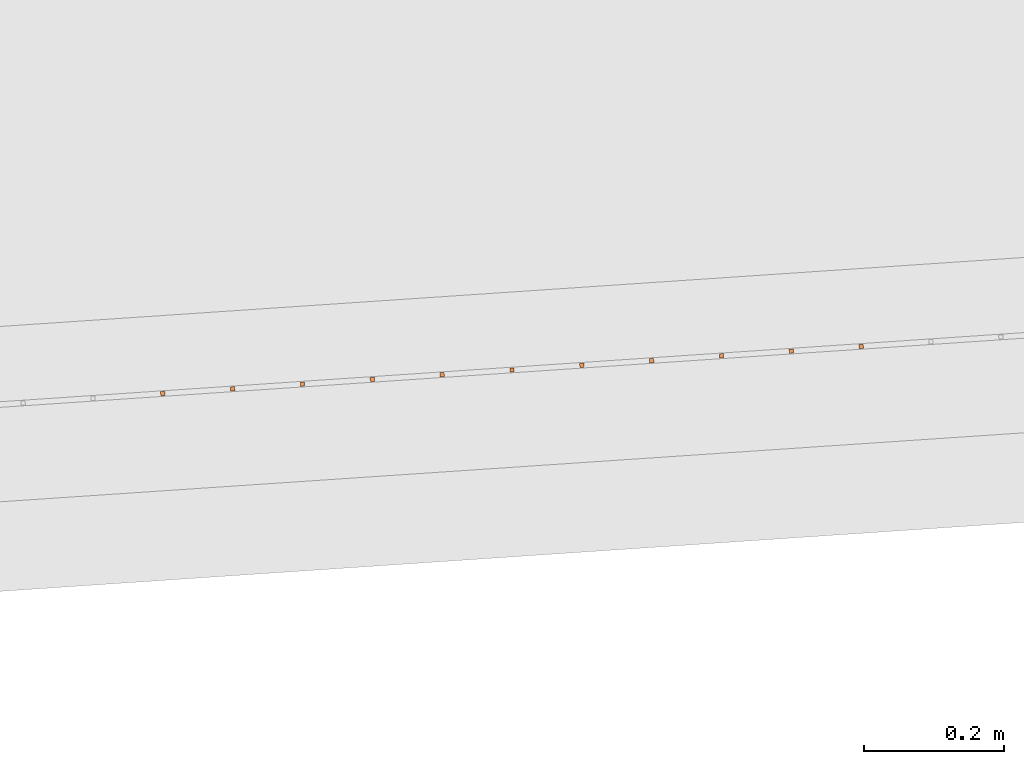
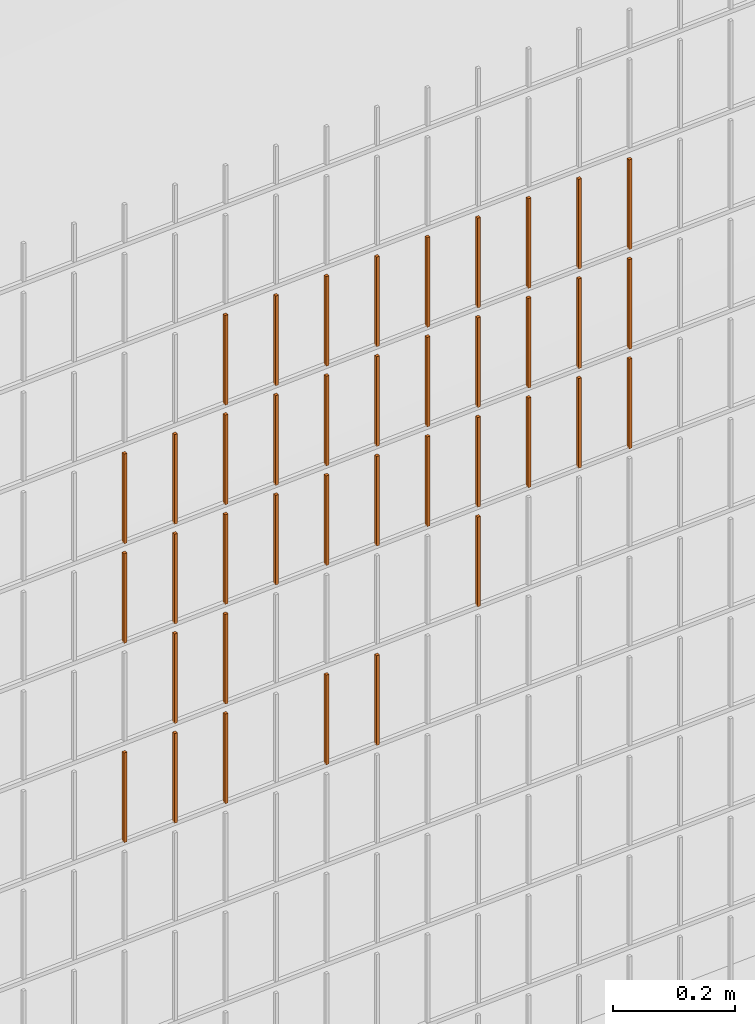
# One storey, part 191 of 1809: 39 proxies, 1 element without a shape of its own.
"""IFC2X3 building model written with IfcOpenShell, lengths in millimetres."""

from ifc_helpers import new_model, entity, si_unit, converted_unit, derived_unit, money_unit, direction, frame, origin_with_axes, place, context, subcontext, project, spatial, faceted_brep, source, transform, mapped, material, type_object, element, aggregate, save


model = new_model("IFC2X3")

# Units and contexts
model_context = context("Model", 3, precision=0.01, world=origin_with_axes(), true_north=direction((0.0, 1.0)))
body_context = subcontext(model_context, "Body", "Model", "MODEL_VIEW")
ifc_project = project(units=[si_unit("LENGTHUNIT", "METRE", prefix="MILLI"), si_unit("AREAUNIT", "SQUARE_METRE"), si_unit("VOLUMEUNIT", "CUBIC_METRE"), converted_unit("PLANEANGLEUNIT", "DEGREE", entity("IfcPlaneAngleMeasure", 0.0174532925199), si_unit("PLANEANGLEUNIT", "RADIAN"), dimensions=[0, 0, 0, 0, 0, 0, 0]), si_unit("SOLIDANGLEUNIT", "STERADIAN"), money_unit("EUR"), converted_unit("TIMEUNIT", "Year", entity("IfcTimeMeasure", 31556926.0), si_unit("TIMEUNIT", "SECOND"), dimensions=[0, 0, 1, 0, 0, 0, 0]), si_unit("MASSUNIT", "GRAM", prefix="KILO"), si_unit("THERMODYNAMICTEMPERATUREUNIT", "DEGREE_CELSIUS"), si_unit("LUMINOUSINTENSITYUNIT", "LUMEN"), si_unit("ENERGYUNIT", "JOULE", prefix="MEGA"), derived_unit("THERMALCONDUCTANCEUNIT", [(si_unit("POWERUNIT", "WATT"), 1), (si_unit("LENGTHUNIT", "METRE"), -1), (si_unit("THERMODYNAMICTEMPERATUREUNIT", "KELVIN"), -1)]), derived_unit("SPECIFICHEATCAPACITYUNIT", [(si_unit("ENERGYUNIT", "JOULE"), 1), (si_unit("MASSUNIT", "GRAM", prefix="KILO"), -1), (si_unit("THERMODYNAMICTEMPERATUREUNIT", "KELVIN"), -1)]), derived_unit("MASSDENSITYUNIT", [(si_unit("MASSUNIT", "GRAM", prefix="KILO"), 1), (si_unit("VOLUMEUNIT", "CUBIC_METRE"), -1)])], contexts=[model_context])

# Site, building, storey
site_placement = place(None, origin_with_axes())
site = spatial("IfcSite", under=ifc_project, at=site_placement, Name="Politse- ja Piirivalveameti ning Päästeameti ühishoone", CompositionType="ELEMENT")
building_placement = place(site_placement, origin_with_axes())
building = spatial("IfcBuilding", under=site, at=building_placement, Name="Politse- ja Piirivalveameti ning Päästeameti ühishoone", CompositionType="ELEMENT")
storey_placement = place(building_placement, origin_with_axes())
storey = spatial("IfcBuildingStorey", under=building, at=storey_placement, Name="Esimene korrus", CompositionType="ELEMENT", Elevation=0.0)

# Proxies
building_element_proxy_type_1 = type_object("IfcBuildingElementProxyType", Name="Railing Type", PredefinedType="NOTDEFINED")
proxy_1_placement = place(storey_placement, frame((89252.001212, -29183.4766571, 203.661247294), z_axis=(0.0, 0.0, 1.0), x_axis=(1.0, 0.0, 0.0)))
proxy_1 = element("IfcBuildingElementProxy", 1, at=proxy_1_placement, inside=storey, type_object=building_element_proxy_type_1, Name="PIIRDEAED")
ifc_material = material(Name="ET-03_Raud")
building_element_proxy_type_2 = type_object("IfcBuildingElementProxyType", Name="IfcBuildingElementProxy", PredefinedType="NOTDEFINED")
shared_shape_1 = source(origin_with_axes(), body_context, "Body", "Brep", [
    faceted_brep([(3.0, 3.0, -0.000752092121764), (-3.0, 3.0, -0.000752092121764), (-3.0, 3.0, 179.99926046), (3.0, 3.0, 179.99926046), (3.0, -3.0, 0.000752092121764), (-3.0, -3.0, 0.000752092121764), (-3.0, -3.0, 180.000764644), (3.0, -3.0, 180.000764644)], [[[0, 1, 2, 3]], [[0, 4, 5, 1]], [[1, 5, 6, 2]], [[3, 2, 6, 7]], [[4, 0, 3, 7]], [[5, 4, 7, 6]]]),
])
proxy_2_placement = place(proxy_1_placement, frame((-68570.4399222, -21929.4492028, 1210.00478532), z_axis=(0.0, 0.0, 1.0), x_axis=(1.0, 0.0, 0.0)))
proxy_2 = element("IfcBuildingElementProxy", 2, at=proxy_2_placement, type_object=building_element_proxy_type_2, material=ifc_material, Name="BALUSTER - 001", context=body_context, shape_type="MappedRepresentation", body=[
    mapped(shared_shape_1, transform((0.0, 0.0, 0.0), x_axis=(-0.0673926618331, 0.997726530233, 0.0), y_axis=(-0.997726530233, -0.0673926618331, 0.0), z_axis=(0.0, 0.0, 1.0))),
])
shared_shape_2 = source(origin_with_axes(), body_context, "Body", "Brep", [
    faceted_brep([(3.0, 3.0, -0.000752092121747), (-3.0, 3.0, -0.00075209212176), (-3.00000000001, 3.0, 179.99926046), (2.99999999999, 3.0, 179.99926046), (3.0, -3.0, 0.00075209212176), (-3.0, -3.0, 0.000752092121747), (-3.00000000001, -3.0, 180.000764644), (2.99999999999, -3.0, 180.000764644)], [[[0, 1, 2, 3]], [[0, 4, 5, 1]], [[1, 5, 6, 2]], [[3, 2, 6, 7]], [[4, 0, 3, 7]], [[5, 4, 7, 6]]]),
])
proxy_3_placement = place(proxy_1_placement, frame((-68470.6672692, -21922.7099367, 1010.02985506), z_axis=(0.0, 0.0, 1.0), x_axis=(1.0, 0.0, 0.0)))
proxy_3 = element("IfcBuildingElementProxy", 3, at=proxy_3_placement, type_object=building_element_proxy_type_2, material=ifc_material, Name="BALUSTER - 001", context=body_context, shape_type="MappedRepresentation", body=[
    mapped(shared_shape_2, transform((0.0, 0.0, 0.0), x_axis=(-0.0673926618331, 0.997726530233, 0.0), y_axis=(-0.997726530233, -0.0673926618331, 0.0), z_axis=(0.0, 0.0, 1.0))),
])
shared_shape_3 = source(origin_with_axes(), body_context, "Body", "Brep", [
    faceted_brep([(3.0, 3.0, -0.000752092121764), (-3.0, 3.0, -0.000752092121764), (-3.0, 3.0, 179.99926046), (3.0, 3.0, 179.99926046), (3.0, -3.0, 0.000752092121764), (-3.0, -3.0, 0.000752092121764), (-3.0, -3.0, 180.000764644), (3.0, -3.0, 180.000764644)], [[[0, 1, 2, 3]], [[0, 4, 5, 1]], [[1, 5, 6, 2]], [[3, 2, 6, 7]], [[4, 0, 3, 7]], [[5, 4, 7, 6]]]),
])
proxy_4_placement = place(proxy_1_placement, frame((-68570.4399222, -21929.4492028, 1410.00478532), z_axis=(0.0, 0.0, 1.0), x_axis=(1.0, 0.0, 0.0)))
proxy_4 = element("IfcBuildingElementProxy", 4, at=proxy_4_placement, type_object=building_element_proxy_type_2, material=ifc_material, Name="BALUSTER - 001", context=body_context, shape_type="MappedRepresentation", body=[
    mapped(shared_shape_3, transform((0.0, 0.0, 0.0), x_axis=(-0.0673926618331, 0.997726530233, 0.0), y_axis=(-0.997726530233, -0.0673926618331, 0.0), z_axis=(0.0, 0.0, 1.0))),
])
proxy_5_placement = place(proxy_1_placement, frame((-68570.4399222, -21929.4492028, 1610.00478532), z_axis=(0.0, 0.0, 1.0), x_axis=(1.0, 0.0, 0.0)))
proxy_5 = element("IfcBuildingElementProxy", 5, at=proxy_5_placement, type_object=building_element_proxy_type_2, material=ifc_material, Name="BALUSTER - 001", context=body_context, shape_type="MappedRepresentation", body=[
    mapped(shared_shape_3, transform((0.0, 0.0, 0.0), x_axis=(-0.0673926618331, 0.997726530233, 0.0), y_axis=(-0.997726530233, -0.0673926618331, 0.0), z_axis=(0.0, 0.0, 1.0))),
])
shared_shape_4 = source(origin_with_axes(), body_context, "Body", "Brep", [
    faceted_brep([(3.0, 3.0, -0.000752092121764), (-3.0, 3.0, -0.000752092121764), (-3.0, 3.0, 179.99926046), (3.0, 3.0, 179.99926046), (3.0, -3.0, 0.000752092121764), (-3.0, -3.0, 0.000752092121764), (-3.0, -3.0, 180.000764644), (3.0, -3.0, 180.000764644)], [[[0, 1, 2, 3]], [[0, 4, 5, 1]], [[1, 5, 6, 2]], [[3, 2, 6, 7]], [[4, 0, 3, 7]], [[5, 4, 7, 6]]]),
])
proxy_6_placement = place(proxy_1_placement, frame((-68670.2125752, -21936.188469, 809.979715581), z_axis=(0.0, 0.0, 1.0), x_axis=(1.0, 0.0, 0.0)))
proxy_6 = element("IfcBuildingElementProxy", 6, at=proxy_6_placement, type_object=building_element_proxy_type_2, material=ifc_material, Name="BALUSTER - 001", context=body_context, shape_type="MappedRepresentation", body=[
    mapped(shared_shape_4, transform((0.0, 0.0, 0.0), x_axis=(-0.0673926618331, 0.997726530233, 0.0), y_axis=(-0.997726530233, -0.0673926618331, 0.0), z_axis=(0.0, 0.0, 1.0))),
])
proxy_7_placement = place(proxy_1_placement, frame((-68769.9852282, -21942.9277352, 809.954645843), z_axis=(0.0, 0.0, 1.0), x_axis=(1.0, 0.0, 0.0)))
proxy_7 = element("IfcBuildingElementProxy", 7, at=proxy_7_placement, type_object=building_element_proxy_type_2, material=ifc_material, Name="BALUSTER - 001", context=body_context, shape_type="MappedRepresentation", body=[
    mapped(shared_shape_4, transform((0.0, 0.0, 0.0), x_axis=(-0.0673926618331, 0.997726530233, 0.0), y_axis=(-0.997726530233, -0.0673926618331, 0.0), z_axis=(0.0, 0.0, 1.0))),
])
proxy_8_placement = place(proxy_1_placement, frame((-68769.9852282, -21942.9277352, 1209.95464584), z_axis=(0.0, 0.0, 1.0), x_axis=(1.0, 0.0, 0.0)))
proxy_8 = element("IfcBuildingElementProxy", 8, at=proxy_8_placement, type_object=building_element_proxy_type_2, material=ifc_material, Name="BALUSTER - 001", context=body_context, shape_type="MappedRepresentation", body=[
    mapped(shared_shape_4, transform((0.0, 0.0, 0.0), x_axis=(-0.0673926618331, 0.997726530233, 0.0), y_axis=(-0.997726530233, -0.0673926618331, 0.0), z_axis=(0.0, 0.0, 1.0))),
])
shared_shape_5 = source(origin_with_axes(), body_context, "Body", "Brep", [
    faceted_brep([(3.0, 3.0, -0.000752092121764), (-3.0, 3.0, -0.000752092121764), (-3.0, 3.0, 179.99926046), (3.0, 3.0, 179.99926046), (3.0, -3.0, 0.000752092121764), (-3.0, -3.0, 0.000752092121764), (-3.0, -3.0, 180.000764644), (3.0, -3.0, 180.000764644)], [[[0, 1, 2, 3]], [[0, 4, 5, 1]], [[1, 5, 6, 2]], [[3, 2, 6, 7]], [[4, 0, 3, 7]], [[5, 4, 7, 6]]]),
])
proxy_9_placement = place(proxy_1_placement, frame((-69169.0758403, -21969.8847999, 1209.85436689), z_axis=(0.0, 0.0, 1.0), x_axis=(1.0, 0.0, 0.0)))
proxy_9 = element("IfcBuildingElementProxy", 9, at=proxy_9_placement, type_object=building_element_proxy_type_2, material=ifc_material, Name="BALUSTER - 001", context=body_context, shape_type="MappedRepresentation", body=[
    mapped(shared_shape_5, transform((0.0, 0.0, 0.0), x_axis=(-0.0673926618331, 0.997726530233, 0.0), y_axis=(-0.997726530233, -0.0673926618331, 0.0), z_axis=(0.0, 0.0, 1.0))),
])
shared_shape_6 = source(origin_with_axes(), body_context, "Body", "Brep", [
    faceted_brep([(3.0, 3.0, -0.000752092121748), (-3.0, 3.0, -0.00075209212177), (-3.0, 3.0, 179.99926046), (3.0, 3.0, 179.99926046), (3.0, -3.0, 0.00075209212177), (-3.0, -3.0, 0.000752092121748), (-3.0, -3.0, 180.000764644), (3.0, -3.0, 180.000764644)], [[[0, 1, 2, 3]], [[0, 4, 5, 1]], [[1, 5, 6, 2]], [[3, 2, 6, 7]], [[4, 0, 3, 7]], [[5, 4, 7, 6]]]),
])
proxy_10_placement = place(proxy_1_placement, frame((-68969.5305343, -21956.4062676, 809.904506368), z_axis=(0.0, 0.0, 1.0), x_axis=(1.0, 0.0, 0.0)))
proxy_10 = element("IfcBuildingElementProxy", 10, at=proxy_10_placement, type_object=building_element_proxy_type_2, material=ifc_material, Name="BALUSTER - 001", context=body_context, shape_type="MappedRepresentation", body=[
    mapped(shared_shape_6, transform((0.0, 0.0, 0.0), x_axis=(-0.0673926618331, 0.997726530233, 0.0), y_axis=(-0.997726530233, -0.0673926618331, 0.0), z_axis=(0.0, 0.0, 1.0))),
])
proxy_11_placement = place(proxy_1_placement, frame((-68370.8946162, -21915.9706705, 1210.05492479), z_axis=(0.0, 0.0, 1.0), x_axis=(1.0, 0.0, 0.0)))
proxy_11 = element("IfcBuildingElementProxy", 11, at=proxy_11_placement, type_object=building_element_proxy_type_2, material=ifc_material, Name="BALUSTER - 001", context=body_context, shape_type="MappedRepresentation", body=[
    mapped(shared_shape_6, transform((0.0, 0.0, 0.0), x_axis=(-0.0673926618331, 0.997726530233, 0.0), y_axis=(-0.997726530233, -0.0673926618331, 0.0), z_axis=(0.0, 0.0, 1.0))),
])
proxy_12_placement = place(proxy_1_placement, frame((-68969.5305343, -21956.4062676, 1209.90450637), z_axis=(0.0, 0.0, 1.0), x_axis=(1.0, 0.0, 0.0)))
proxy_12 = element("IfcBuildingElementProxy", 12, at=proxy_12_placement, type_object=building_element_proxy_type_2, material=ifc_material, Name="BALUSTER - 001", context=body_context, shape_type="MappedRepresentation", body=[
    mapped(shared_shape_6, transform((0.0, 0.0, 0.0), x_axis=(-0.0673926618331, 0.997726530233, 0.0), y_axis=(-0.997726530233, -0.0673926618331, 0.0), z_axis=(0.0, 0.0, 1.0))),
])
shared_shape_7 = source(origin_with_axes(), body_context, "Body", "Brep", [
    faceted_brep([(3.0, 3.0, -0.000752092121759), (-3.0, 3.0, -0.000752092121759), (-3.0, 3.0, 179.99926046), (3.0, 3.0, 179.99926046), (3.0, -3.0, 0.000752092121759), (-3.0, -3.0, 0.000752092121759), (-3.0, -3.0, 180.000764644), (3.0, -3.0, 180.000764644)], [[[0, 1, 2, 3]], [[0, 4, 5, 1]], [[1, 5, 6, 2]], [[3, 2, 6, 7]], [[4, 0, 3, 7]], [[5, 4, 7, 6]]]),
])
proxy_13_placement = place(proxy_1_placement, frame((-68470.6672692, -21922.7099367, 1210.02985506), z_axis=(0.0, 0.0, 1.0), x_axis=(1.0, 0.0, 0.0)))
proxy_13 = element("IfcBuildingElementProxy", 13, at=proxy_13_placement, type_object=building_element_proxy_type_2, material=ifc_material, Name="BALUSTER - 001", context=body_context, shape_type="MappedRepresentation", body=[
    mapped(shared_shape_7, transform((0.0, 0.0, 0.0), x_axis=(-0.0673926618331, 0.997726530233, 0.0), y_axis=(-0.997726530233, -0.0673926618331, 0.0), z_axis=(0.0, 0.0, 1.0))),
])
shared_shape_8 = source(origin_with_axes(), body_context, "Body", "Brep", [
    faceted_brep([(3.0, 3.0, -0.000752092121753), (-3.0, 3.0, -0.000752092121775), (-3.0, 3.0, 179.99926046), (3.0, 3.0, 179.99926046), (3.0, -3.0, 0.000752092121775), (-3.0, -3.0, 0.000752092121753), (-3.0, -3.0, 180.000764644), (3.0, -3.0, 180.000764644)], [[[0, 1, 2, 3]], [[0, 4, 5, 1]], [[1, 5, 6, 2]], [[3, 2, 6, 7]], [[4, 0, 3, 7]], [[5, 4, 7, 6]]]),
])
proxy_14_placement = place(proxy_1_placement, frame((-69169.0758403, -21969.8847999, 809.854366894), z_axis=(0.0, 0.0, 1.0), x_axis=(1.0, 0.0, 0.0)))
proxy_14 = element("IfcBuildingElementProxy", 14, at=proxy_14_placement, type_object=building_element_proxy_type_2, material=ifc_material, Name="BALUSTER - 001", context=body_context, shape_type="MappedRepresentation", body=[
    mapped(shared_shape_8, transform((0.0, 0.0, 0.0), x_axis=(-0.0673926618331, 0.997726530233, 0.0), y_axis=(-0.997726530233, -0.0673926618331, 0.0), z_axis=(0.0, 0.0, 1.0))),
])
proxy_15_placement = place(proxy_1_placement, frame((-68171.3493101, -21902.4921381, 1210.10506427), z_axis=(0.0, 0.0, 1.0), x_axis=(1.0, 0.0, 0.0)))
proxy_15 = element("IfcBuildingElementProxy", 15, at=proxy_15_placement, type_object=building_element_proxy_type_2, material=ifc_material, Name="BALUSTER - 001", context=body_context, shape_type="MappedRepresentation", body=[
    mapped(shared_shape_8, transform((0.0, 0.0, 0.0), x_axis=(-0.0673926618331, 0.997726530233, 0.0), y_axis=(-0.997726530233, -0.0673926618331, 0.0), z_axis=(0.0, 0.0, 1.0))),
])
shared_shape_9 = source(origin_with_axes(), body_context, "Body", "Brep", [
    faceted_brep([(3.0, 3.0, -0.000752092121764), (-3.0, 3.0, -0.000752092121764), (-3.0, 3.0, 179.99926046), (3.0, 3.0, 179.99926046), (3.0, -3.0, 0.000752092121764), (-3.0, -3.0, 0.000752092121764), (-3.0, -3.0, 180.000764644), (3.0, -3.0, 180.000764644)], [[[0, 1, 2, 3]], [[0, 4, 5, 1]], [[1, 5, 6, 2]], [[3, 2, 6, 7]], [[4, 0, 3, 7]], [[5, 4, 7, 6]]]),
])
proxy_16_placement = place(proxy_1_placement, frame((-69169.0758403, -21969.8847999, 1409.85436689), z_axis=(0.0, 0.0, 1.0), x_axis=(1.0, 0.0, 0.0)))
proxy_16 = element("IfcBuildingElementProxy", 16, at=proxy_16_placement, type_object=building_element_proxy_type_2, material=ifc_material, Name="BALUSTER - 001", context=body_context, shape_type="MappedRepresentation", body=[
    mapped(shared_shape_9, transform((0.0, 0.0, 0.0), x_axis=(-0.0673926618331, 0.997726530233, 0.0), y_axis=(-0.997726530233, -0.0673926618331, 0.0), z_axis=(0.0, 0.0, 1.0))),
])
shared_shape_10 = source(origin_with_axes(), body_context, "Body", "Brep", [
    faceted_brep([(3.0, 3.0, -0.000752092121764), (-3.0, 3.0, -0.000752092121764), (-3.0, 3.0, 179.99926046), (3.0, 3.0, 179.99926046), (3.0, -3.0, 0.000752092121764), (-3.0, -3.0, 0.000752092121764), (-3.0, -3.0, 180.000764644), (3.0, -3.0, 180.000764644)], [[[0, 1, 2, 3]], [[0, 4, 5, 1]], [[1, 5, 6, 2]], [[3, 2, 6, 7]], [[4, 0, 3, 7]], [[5, 4, 7, 6]]]),
])
proxy_17_placement = place(proxy_1_placement, frame((-68769.9852282, -21942.9277352, 1409.95464584), z_axis=(0.0, 0.0, 1.0), x_axis=(1.0, 0.0, 0.0)))
proxy_17 = element("IfcBuildingElementProxy", 17, at=proxy_17_placement, type_object=building_element_proxy_type_2, material=ifc_material, Name="BALUSTER - 001", context=body_context, shape_type="MappedRepresentation", body=[
    mapped(shared_shape_10, transform((0.0, 0.0, 0.0), x_axis=(-0.0673926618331, 0.997726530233, 0.0), y_axis=(-0.997726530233, -0.0673926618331, 0.0), z_axis=(0.0, 0.0, 1.0))),
])
proxy_18_placement = place(proxy_1_placement, frame((-68769.9852282, -21942.9277352, 1609.95464584), z_axis=(0.0, 0.0, 1.0), x_axis=(1.0, 0.0, 0.0)))
proxy_18 = element("IfcBuildingElementProxy", 18, at=proxy_18_placement, type_object=building_element_proxy_type_2, material=ifc_material, Name="BALUSTER - 001", context=body_context, shape_type="MappedRepresentation", body=[
    mapped(shared_shape_10, transform((0.0, 0.0, 0.0), x_axis=(-0.0673926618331, 0.997726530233, 0.0), y_axis=(-0.997726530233, -0.0673926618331, 0.0), z_axis=(0.0, 0.0, 1.0))),
])
shared_shape_11 = source(origin_with_axes(), body_context, "Body", "Brep", [
    faceted_brep([(3.0, 3.0, -0.000752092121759), (-3.0, 3.0, -0.000752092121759), (-3.0, 3.0, 179.99926046), (3.0, 3.0, 179.99926046), (3.0, -3.0, 0.000752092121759), (-3.0, -3.0, 0.000752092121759), (-3.0, -3.0, 180.000764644), (3.0, -3.0, 180.000764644)], [[[0, 1, 2, 3]], [[0, 4, 5, 1]], [[1, 5, 6, 2]], [[3, 2, 6, 7]], [[4, 0, 3, 7]], [[5, 4, 7, 6]]]),
])
proxy_19_placement = place(proxy_1_placement, frame((-68470.6672692, -21922.7099367, 1410.02985506), z_axis=(0.0, 0.0, 1.0), x_axis=(1.0, 0.0, 0.0)))
proxy_19 = element("IfcBuildingElementProxy", 19, at=proxy_19_placement, type_object=building_element_proxy_type_2, material=ifc_material, Name="BALUSTER - 001", context=body_context, shape_type="MappedRepresentation", body=[
    mapped(shared_shape_11, transform((0.0, 0.0, 0.0), x_axis=(-0.0673926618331, 0.997726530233, 0.0), y_axis=(-0.997726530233, -0.0673926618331, 0.0), z_axis=(0.0, 0.0, 1.0))),
])
proxy_20_placement = place(proxy_1_placement, frame((-68470.6672692, -21922.7099367, 1610.02985506), z_axis=(0.0, 0.0, 1.0), x_axis=(1.0, 0.0, 0.0)))
proxy_20 = element("IfcBuildingElementProxy", 20, at=proxy_20_placement, type_object=building_element_proxy_type_2, material=ifc_material, Name="BALUSTER - 001", context=body_context, shape_type="MappedRepresentation", body=[
    mapped(shared_shape_11, transform((0.0, 0.0, 0.0), x_axis=(-0.0673926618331, 0.997726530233, 0.0), y_axis=(-0.997726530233, -0.0673926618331, 0.0), z_axis=(0.0, 0.0, 1.0))),
])
shared_shape_12 = source(origin_with_axes(), body_context, "Body", "Brep", [
    faceted_brep([(3.0, 3.0, -0.000752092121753), (-3.0, 3.0, -0.000752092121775), (-3.0, 3.0, 179.99926046), (3.0, 3.0, 179.99926046), (3.0, -3.0, 0.000752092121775), (-3.0, -3.0, 0.000752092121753), (-3.0, -3.0, 180.000764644), (3.0, -3.0, 180.000764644)], [[[0, 1, 2, 3]], [[0, 4, 5, 1]], [[1, 5, 6, 2]], [[3, 2, 6, 7]], [[4, 0, 3, 7]], [[5, 4, 7, 6]]]),
])
proxy_21_placement = place(proxy_1_placement, frame((-68171.3493101, -21902.4921381, 1410.10506427), z_axis=(0.0, 0.0, 1.0), x_axis=(1.0, 0.0, 0.0)))
proxy_21 = element("IfcBuildingElementProxy", 21, at=proxy_21_placement, type_object=building_element_proxy_type_2, material=ifc_material, Name="BALUSTER - 001", context=body_context, shape_type="MappedRepresentation", body=[
    mapped(shared_shape_12, transform((0.0, 0.0, 0.0), x_axis=(-0.0673926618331, 0.997726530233, 0.0), y_axis=(-0.997726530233, -0.0673926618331, 0.0), z_axis=(0.0, 0.0, 1.0))),
])
proxy_22_placement = place(proxy_1_placement, frame((-68171.3493101, -21902.4921381, 1610.10506427), z_axis=(0.0, 0.0, 1.0), x_axis=(1.0, 0.0, 0.0)))
proxy_22 = element("IfcBuildingElementProxy", 22, at=proxy_22_placement, type_object=building_element_proxy_type_2, material=ifc_material, Name="BALUSTER - 001", context=body_context, shape_type="MappedRepresentation", body=[
    mapped(shared_shape_12, transform((0.0, 0.0, 0.0), x_axis=(-0.0673926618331, 0.997726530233, 0.0), y_axis=(-0.997726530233, -0.0673926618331, 0.0), z_axis=(0.0, 0.0, 1.0))),
])
shared_shape_13 = source(origin_with_axes(), body_context, "Body", "Brep", [
    faceted_brep([(3.0, 3.0, -0.000752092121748), (-3.0, 3.0, -0.00075209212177), (-3.0, 3.0, 179.99926046), (3.0, 3.0, 179.99926046), (3.0, -3.0, 0.00075209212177), (-3.0, -3.0, 0.000752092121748), (-3.0, -3.0, 180.000764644), (3.0, -3.0, 180.000764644)], [[[0, 1, 2, 3]], [[0, 4, 5, 1]], [[1, 5, 6, 2]], [[3, 2, 6, 7]], [[4, 0, 3, 7]], [[5, 4, 7, 6]]]),
])
proxy_23_placement = place(proxy_1_placement, frame((-68370.8946162, -21915.9706705, 1410.05492479), z_axis=(0.0, 0.0, 1.0), x_axis=(1.0, 0.0, 0.0)))
proxy_23 = element("IfcBuildingElementProxy", 23, at=proxy_23_placement, type_object=building_element_proxy_type_2, material=ifc_material, Name="BALUSTER - 001", context=body_context, shape_type="MappedRepresentation", body=[
    mapped(shared_shape_13, transform((0.0, 0.0, 0.0), x_axis=(-0.0673926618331, 0.997726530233, 0.0), y_axis=(-0.997726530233, -0.0673926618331, 0.0), z_axis=(0.0, 0.0, 1.0))),
])
proxy_24_placement = place(proxy_1_placement, frame((-68969.5305343, -21956.4062676, 1409.90450637), z_axis=(0.0, 0.0, 1.0), x_axis=(1.0, 0.0, 0.0)))
proxy_24 = element("IfcBuildingElementProxy", 24, at=proxy_24_placement, type_object=building_element_proxy_type_2, material=ifc_material, Name="BALUSTER - 001", context=body_context, shape_type="MappedRepresentation", body=[
    mapped(shared_shape_13, transform((0.0, 0.0, 0.0), x_axis=(-0.0673926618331, 0.997726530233, 0.0), y_axis=(-0.997726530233, -0.0673926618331, 0.0), z_axis=(0.0, 0.0, 1.0))),
])
proxy_25_placement = place(proxy_1_placement, frame((-68370.8946162, -21915.9706705, 1610.05492479), z_axis=(0.0, 0.0, 1.0), x_axis=(1.0, 0.0, 0.0)))
proxy_25 = element("IfcBuildingElementProxy", 25, at=proxy_25_placement, type_object=building_element_proxy_type_2, material=ifc_material, Name="BALUSTER - 001", context=body_context, shape_type="MappedRepresentation", body=[
    mapped(shared_shape_13, transform((0.0, 0.0, 0.0), x_axis=(-0.0673926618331, 0.997726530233, 0.0), y_axis=(-0.997726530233, -0.0673926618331, 0.0), z_axis=(0.0, 0.0, 1.0))),
])
proxy_26_placement = place(proxy_1_placement, frame((-68969.5305343, -21956.4062676, 1609.90450637), z_axis=(0.0, 0.0, 1.0), x_axis=(1.0, 0.0, 0.0)))
proxy_26 = element("IfcBuildingElementProxy", 26, at=proxy_26_placement, type_object=building_element_proxy_type_2, material=ifc_material, Name="BALUSTER - 001", context=body_context, shape_type="MappedRepresentation", body=[
    mapped(shared_shape_13, transform((0.0, 0.0, 0.0), x_axis=(-0.0673926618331, 0.997726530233, 0.0), y_axis=(-0.997726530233, -0.0673926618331, 0.0), z_axis=(0.0, 0.0, 1.0))),
])
shared_shape_14 = source(origin_with_axes(), body_context, "Body", "Brep", [
    faceted_brep([(3.0, 3.0, -0.000752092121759), (-3.0, 3.0, -0.000752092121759), (-3.0, 3.0, 179.99926046), (3.0, 3.0, 179.99926046), (3.0, -3.0, 0.000752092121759), (-3.0, -3.0, 0.000752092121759), (-3.0, -3.0, 180.000764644), (3.0, -3.0, 180.000764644)], [[[0, 1, 2, 3]], [[0, 4, 5, 1]], [[1, 5, 6, 2]], [[3, 2, 6, 7]], [[4, 0, 3, 7]], [[5, 4, 7, 6]]]),
])
proxy_27_placement = place(proxy_1_placement, frame((-68271.1219631, -21909.2314043, 1210.07999453), z_axis=(0.0, 0.0, 1.0), x_axis=(1.0, 0.0, 0.0)))
proxy_27 = element("IfcBuildingElementProxy", 27, at=proxy_27_placement, type_object=building_element_proxy_type_2, material=ifc_material, Name="BALUSTER - 001", context=body_context, shape_type="MappedRepresentation", body=[
    mapped(shared_shape_14, transform((0.0, 0.0, 0.0), x_axis=(-0.0673926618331, 0.997726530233, 0.0), y_axis=(-0.997726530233, -0.0673926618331, 0.0), z_axis=(0.0, 0.0, 1.0))),
])
proxy_28_placement = place(proxy_1_placement, frame((-68869.7578813, -21949.6670014, 1209.92957611), z_axis=(0.0, 0.0, 1.0), x_axis=(1.0, 0.0, 0.0)))
proxy_28 = element("IfcBuildingElementProxy", 28, at=proxy_28_placement, type_object=building_element_proxy_type_2, material=ifc_material, Name="BALUSTER - 001", context=body_context, shape_type="MappedRepresentation", body=[
    mapped(shared_shape_14, transform((0.0, 0.0, 0.0), x_axis=(-0.0673926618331, 0.997726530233, 0.0), y_axis=(-0.997726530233, -0.0673926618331, 0.0), z_axis=(0.0, 0.0, 1.0))),
])
shared_shape_15 = source(origin_with_axes(), body_context, "Body", "Brep", [
    faceted_brep([(3.0, 3.0, -0.000752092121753), (-3.0, 3.0, -0.000752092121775), (-3.0, 3.0, 179.99926046), (3.0, 3.0, 179.99926046), (3.0, -3.0, 0.000752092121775), (-3.0, -3.0, 0.000752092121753), (-3.0, -3.0, 180.000764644), (3.0, -3.0, 180.000764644)], [[[0, 1, 2, 3]], [[0, 4, 5, 1]], [[1, 5, 6, 2]], [[3, 2, 6, 7]], [[4, 0, 3, 7]], [[5, 4, 7, 6]]]),
])
proxy_29_placement = place(proxy_1_placement, frame((-69069.3031873, -21963.1455338, 809.879436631), z_axis=(0.0, 0.0, 1.0), x_axis=(1.0, 0.0, 0.0)))
proxy_29 = element("IfcBuildingElementProxy", 29, at=proxy_29_placement, type_object=building_element_proxy_type_2, material=ifc_material, Name="BALUSTER - 001", context=body_context, shape_type="MappedRepresentation", body=[
    mapped(shared_shape_15, transform((0.0, 0.0, 0.0), x_axis=(-0.0673926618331, 0.997726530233, 0.0), y_axis=(-0.997726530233, -0.0673926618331, 0.0), z_axis=(0.0, 0.0, 1.0))),
])
shared_shape_16 = source(origin_with_axes(), body_context, "Body", "Brep", [
    faceted_brep([(3.0, 3.0, -0.000752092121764), (-3.0, 3.0, -0.000752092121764), (-3.0, 3.0, 179.99926046), (3.0, 3.0, 179.99926046), (3.0, -3.0, 0.000752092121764), (-3.0, -3.0, 0.000752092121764), (-3.0, -3.0, 180.000764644), (3.0, -3.0, 180.000764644)], [[[0, 1, 2, 3]], [[0, 4, 5, 1]], [[1, 5, 6, 2]], [[3, 2, 6, 7]], [[4, 0, 3, 7]], [[5, 4, 7, 6]]]),
])
proxy_30_placement = place(proxy_1_placement, frame((-68670.2125752, -21936.188469, 1209.97971558), z_axis=(0.0, 0.0, 1.0), x_axis=(1.0, 0.0, 0.0)))
proxy_30 = element("IfcBuildingElementProxy", 30, at=proxy_30_placement, type_object=building_element_proxy_type_2, material=ifc_material, Name="BALUSTER - 001", context=body_context, shape_type="MappedRepresentation", body=[
    mapped(shared_shape_16, transform((0.0, 0.0, 0.0), x_axis=(-0.0673926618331, 0.997726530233, 0.0), y_axis=(-0.997726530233, -0.0673926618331, 0.0), z_axis=(0.0, 0.0, 1.0))),
])
shared_shape_17 = source(origin_with_axes(), body_context, "Body", "Brep", [
    faceted_brep([(3.0, 3.0, -0.000752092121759), (-3.0, 3.0, -0.000752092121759), (-3.0, 3.0, 179.99926046), (3.0, 3.0, 179.99926046), (3.0, -3.0, 0.000752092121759), (-3.0, -3.0, 0.000752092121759), (-3.0, -3.0, 180.000764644), (3.0, -3.0, 180.000764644)], [[[0, 1, 2, 3]], [[0, 4, 5, 1]], [[1, 5, 6, 2]], [[3, 2, 6, 7]], [[4, 0, 3, 7]], [[5, 4, 7, 6]]]),
])
proxy_31_placement = place(proxy_1_placement, frame((-68271.1219631, -21909.2314043, 1410.07999453), z_axis=(0.0, 0.0, 1.0), x_axis=(1.0, 0.0, 0.0)))
proxy_31 = element("IfcBuildingElementProxy", 31, at=proxy_31_placement, type_object=building_element_proxy_type_2, material=ifc_material, Name="BALUSTER - 001", context=body_context, shape_type="MappedRepresentation", body=[
    mapped(shared_shape_17, transform((0.0, 0.0, 0.0), x_axis=(-0.0673926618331, 0.997726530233, 0.0), y_axis=(-0.997726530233, -0.0673926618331, 0.0), z_axis=(0.0, 0.0, 1.0))),
])
proxy_32_placement = place(proxy_1_placement, frame((-68869.7578813, -21949.6670014, 1409.92957611), z_axis=(0.0, 0.0, 1.0), x_axis=(1.0, 0.0, 0.0)))
proxy_32 = element("IfcBuildingElementProxy", 32, at=proxy_32_placement, type_object=building_element_proxy_type_2, material=ifc_material, Name="BALUSTER - 001", context=body_context, shape_type="MappedRepresentation", body=[
    mapped(shared_shape_17, transform((0.0, 0.0, 0.0), x_axis=(-0.0673926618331, 0.997726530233, 0.0), y_axis=(-0.997726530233, -0.0673926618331, 0.0), z_axis=(0.0, 0.0, 1.0))),
])
proxy_33_placement = place(proxy_1_placement, frame((-68271.1219631, -21909.2314043, 1610.07999453), z_axis=(0.0, 0.0, 1.0), x_axis=(1.0, 0.0, 0.0)))
proxy_33 = element("IfcBuildingElementProxy", 33, at=proxy_33_placement, type_object=building_element_proxy_type_2, material=ifc_material, Name="BALUSTER - 001", context=body_context, shape_type="MappedRepresentation", body=[
    mapped(shared_shape_17, transform((0.0, 0.0, 0.0), x_axis=(-0.0673926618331, 0.997726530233, 0.0), y_axis=(-0.997726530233, -0.0673926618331, 0.0), z_axis=(0.0, 0.0, 1.0))),
])
proxy_34_placement = place(proxy_1_placement, frame((-68869.7578813, -21949.6670014, 1609.92957611), z_axis=(0.0, 0.0, 1.0), x_axis=(1.0, 0.0, 0.0)))
proxy_34 = element("IfcBuildingElementProxy", 34, at=proxy_34_placement, type_object=building_element_proxy_type_2, material=ifc_material, Name="BALUSTER - 001", context=body_context, shape_type="MappedRepresentation", body=[
    mapped(shared_shape_17, transform((0.0, 0.0, 0.0), x_axis=(-0.0673926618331, 0.997726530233, 0.0), y_axis=(-0.997726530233, -0.0673926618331, 0.0), z_axis=(0.0, 0.0, 1.0))),
])
shared_shape_18 = source(origin_with_axes(), body_context, "Body", "Brep", [
    faceted_brep([(3.0, 3.0, -0.000752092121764), (-3.0, 3.0, -0.000752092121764), (-3.0, 3.0, 179.99926046), (3.0, 3.0, 179.99926046), (3.0, -3.0, 0.000752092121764), (-3.0, -3.0, 0.000752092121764), (-3.0, -3.0, 180.000764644), (3.0, -3.0, 180.000764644)], [[[0, 1, 2, 3]], [[0, 4, 5, 1]], [[1, 5, 6, 2]], [[3, 2, 6, 7]], [[4, 0, 3, 7]], [[5, 4, 7, 6]]]),
])
proxy_35_placement = place(proxy_1_placement, frame((-68670.2125752, -21936.188469, 1409.97971558), z_axis=(0.0, 0.0, 1.0), x_axis=(1.0, 0.0, 0.0)))
proxy_35 = element("IfcBuildingElementProxy", 35, at=proxy_35_placement, type_object=building_element_proxy_type_2, material=ifc_material, Name="BALUSTER - 001", context=body_context, shape_type="MappedRepresentation", body=[
    mapped(shared_shape_18, transform((0.0, 0.0, 0.0), x_axis=(-0.0673926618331, 0.997726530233, 0.0), y_axis=(-0.997726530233, -0.0673926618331, 0.0), z_axis=(0.0, 0.0, 1.0))),
])
proxy_36_placement = place(proxy_1_placement, frame((-68670.2125752, -21936.188469, 1609.97971558), z_axis=(0.0, 0.0, 1.0), x_axis=(1.0, 0.0, 0.0)))
proxy_36 = element("IfcBuildingElementProxy", 36, at=proxy_36_placement, type_object=building_element_proxy_type_2, material=ifc_material, Name="BALUSTER - 001", context=body_context, shape_type="MappedRepresentation", body=[
    mapped(shared_shape_18, transform((0.0, 0.0, 0.0), x_axis=(-0.0673926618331, 0.997726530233, 0.0), y_axis=(-0.997726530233, -0.0673926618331, 0.0), z_axis=(0.0, 0.0, 1.0))),
])
shared_shape_19 = source(origin_with_axes(), body_context, "Body", "Brep", [
    faceted_brep([(3.0, 3.0, -0.000752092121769), (-3.0, 3.0, -0.000752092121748), (-3.0, 3.0, 179.99926046), (3.0, 3.0, 179.99926046), (3.0, -3.0, 0.000752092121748), (-3.0, -3.0, 0.000752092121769), (-3.0, -3.0, 180.000764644), (3.0, -3.0, 180.000764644)], [[[0, 1, 2, 3]], [[0, 4, 5, 1]], [[1, 5, 6, 2]], [[3, 2, 6, 7]], [[4, 0, 3, 7]], [[5, 4, 7, 6]]]),
])
proxy_37_placement = place(proxy_1_placement, frame((-69069.3031873, -21963.1455338, 1209.87943663), z_axis=(0.0, 0.0, 1.0), x_axis=(1.0, 0.0, 0.0)))
proxy_37 = element("IfcBuildingElementProxy", 37, at=proxy_37_placement, type_object=building_element_proxy_type_2, material=ifc_material, Name="BALUSTER - 001", context=body_context, shape_type="MappedRepresentation", body=[
    mapped(shared_shape_19, transform((0.0, 0.0, 0.0), x_axis=(-0.0673926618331, 0.997726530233, 0.0), y_axis=(-0.997726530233, -0.0673926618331, 0.0), z_axis=(0.0, 0.0, 1.0))),
])
shared_shape_20 = source(origin_with_axes(), body_context, "Body", "Brep", [
    faceted_brep([(3.0, 3.0, -0.000752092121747), (-3.0, 3.0, -0.00075209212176), (-3.00000000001, 3.0, 179.99926046), (2.99999999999, 3.0, 179.99926046), (3.0, -3.0, 0.00075209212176), (-3.0, -3.0, 0.000752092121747), (-3.00000000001, -3.0, 180.000764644), (2.99999999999, -3.0, 180.000764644)], [[[0, 1, 2, 3]], [[0, 4, 5, 1]], [[1, 5, 6, 2]], [[3, 2, 6, 7]], [[4, 0, 3, 7]], [[5, 4, 7, 6]]]),
])
proxy_38_placement = place(proxy_1_placement, frame((-68969.5305343, -21956.4062676, 1009.90450637), z_axis=(0.0, 0.0, 1.0), x_axis=(1.0, 0.0, 0.0)))
proxy_38 = element("IfcBuildingElementProxy", 38, at=proxy_38_placement, type_object=building_element_proxy_type_2, material=ifc_material, Name="BALUSTER - 001", context=body_context, shape_type="MappedRepresentation", body=[
    mapped(shared_shape_20, transform((0.0, 0.0, 0.0), x_axis=(-0.0673926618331, 0.997726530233, 0.0), y_axis=(-0.997726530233, -0.0673926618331, 0.0), z_axis=(0.0, 0.0, 1.0))),
])
proxy_39_placement = place(proxy_1_placement, frame((-69069.3031873, -21963.1455338, 1009.87943663), z_axis=(0.0, 0.0, 1.0), x_axis=(1.0, 0.0, 0.0)))
proxy_39 = element("IfcBuildingElementProxy", 39, at=proxy_39_placement, type_object=building_element_proxy_type_2, material=ifc_material, Name="BALUSTER - 001", context=body_context, shape_type="MappedRepresentation", body=[
    mapped(shared_shape_20, transform((0.0, 0.0, 0.0), x_axis=(-0.0673926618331, 0.997726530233, 0.0), y_axis=(-0.997726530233, -0.0673926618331, 0.0), z_axis=(0.0, 0.0, 1.0))),
])
shared_shape_21 = source(origin_with_axes(), body_context, "Body", "Brep", [
    faceted_brep([(3.0, 3.0, -0.000752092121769), (-3.0, 3.0, -0.000752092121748), (-3.0, 3.0, 179.99926046), (3.0, 3.0, 179.99926046), (3.0, -3.0, 0.000752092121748), (-3.0, -3.0, 0.000752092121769), (-3.0, -3.0, 180.000764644), (3.0, -3.0, 180.000764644)], [[[0, 1, 2, 3]], [[0, 4, 5, 1]], [[1, 5, 6, 2]], [[3, 2, 6, 7]], [[4, 0, 3, 7]], [[5, 4, 7, 6]]]),
])
proxy_40_placement = place(proxy_1_placement, frame((-69069.3031873, -21963.1455338, 1409.87943663), z_axis=(0.0, 0.0, 1.0), x_axis=(1.0, 0.0, 0.0)))
proxy_40 = element("IfcBuildingElementProxy", 40, at=proxy_40_placement, type_object=building_element_proxy_type_2, material=ifc_material, Name="BALUSTER - 001", context=body_context, shape_type="MappedRepresentation", body=[
    mapped(shared_shape_21, transform((0.0, 0.0, 0.0), x_axis=(-0.0673926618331, 0.997726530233, 0.0), y_axis=(-0.997726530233, -0.0673926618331, 0.0), z_axis=(0.0, 0.0, 1.0))),
])
aggregate(proxy_1, [proxy_6, proxy_7, proxy_10, proxy_29, proxy_14, proxy_3, proxy_38, proxy_39, proxy_15, proxy_27, proxy_11, proxy_13, proxy_2, proxy_30, proxy_8, proxy_28, proxy_12, proxy_37, proxy_9, proxy_21, proxy_31, proxy_23, proxy_19, proxy_4, proxy_35, proxy_17, proxy_32, proxy_24, proxy_40, proxy_16, proxy_22, proxy_33, proxy_25, proxy_20, proxy_5, proxy_36, proxy_18, proxy_34, proxy_26])

save(model, "model.ifc")
